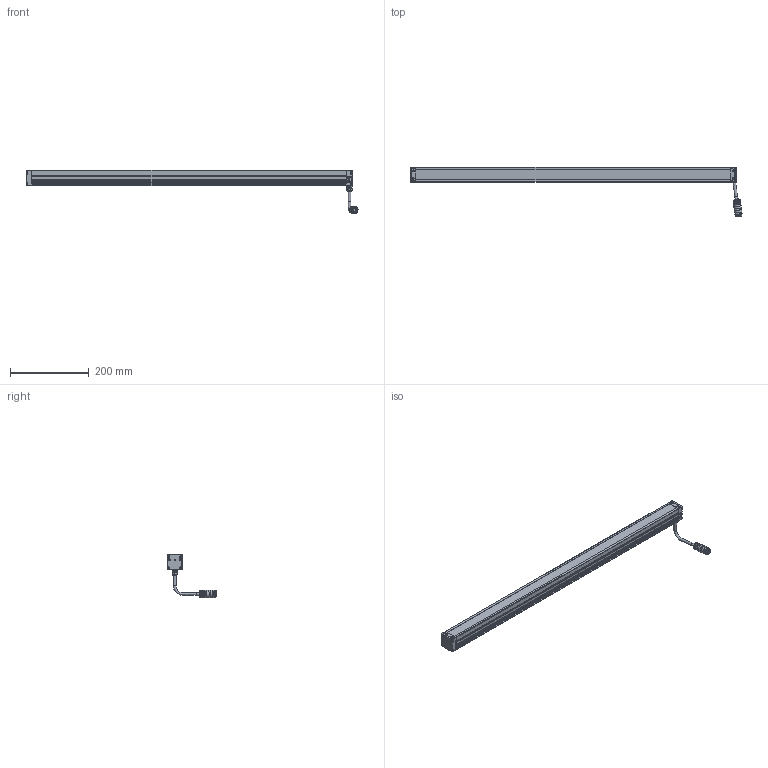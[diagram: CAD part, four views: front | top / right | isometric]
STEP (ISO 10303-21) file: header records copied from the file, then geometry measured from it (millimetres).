
FILE_DESCRIPTION(/* description */ (''),/* implementation_level */ '2;1');
FILE_NAME(/* name */ 'LBHP800',/* time_stamp */ '2025-01-14T08:07:22+01:00',/* author */ (''),/* organization */ ('iiM AG'),/* preprocessor_version */ 'ST-DEVELOPER v16.7',/* originating_system */ 'DEX',/* authorisation */ $);
FILE_SCHEMA (('AUTOMOTIVE_DESIGN {1 0 10303 214 3 1 1}'));
Length unit declared in the file: millimetre
Products named in the file (1): step export
Bounding box: 844.79 x 126.2 x 109.58 mm (x, y, z)
Volume: 1067141.3 mm3; surface area: 238932.2 mm2
Topology: 2 solids, 2 shells, 882 faces, 2334 edges, 1476 vertices
Faces by surface type: cylinder 368, plane 336, cone 138, sphere 21, torus 16, bspline 3
Full cylindrical faces by diameter (mm): 1.001 x12, 2.693 x4, 3 x2, 3.1 x4, 3.242 x6, 3.8 x8, 5.6 x8, 6 x8, 6.8 x2, 8.008 x1, 10 x1, 11 x1, 12.9 x2, 14 x1, 15.015 x1, 16.016 x1, 17.518 x1, 18.519 x3, 18.619 x2
Entity records: 32582 total; most frequent: CARTESIAN_POINT 6224, ORIENTED_EDGE 4118, DIRECTION 4048, EDGE_CURVE 2059, AXIS2_PLACEMENT_3D 1523, VERTEX_POINT 1383, FACE_BOUND 1100, EDGE_LOOP 1086
